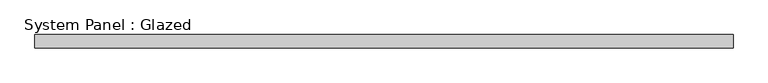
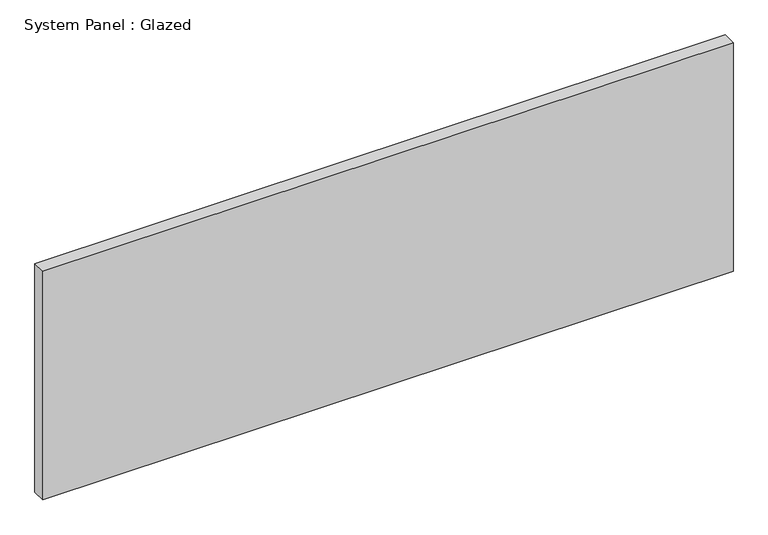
"""IFC4 building model written with IfcOpenShell, lengths in millimetres: plate geometry, System Panel : Glazed."""

import ifcopenshell
import ifcopenshell.guid

model = None  # the IFC model being written
_history = None  # IfcOwnerHistory: only IFC2X3 demands one
_inside = {}  # id of a spatial element -> (the spatial element, [elements in it])
_under = {}  # id of a project, library or spatial element -> (it, [spatial elements below it])
_declared = {}  # id of a project -> (the project, [libraries it declares])
_typed = {}  # id of a type object -> (the type object, [elements of that type])
_made_of = {}  # id of a material, layer set ... -> (it, [elements and type objects made of it])


def new_model(schema):
    """Start an empty IFC model of exactly this schema.

    Asked for "IFC4X3", IfcOpenShell would pick the latest addendum, in which some entities
    have other attributes; the version numbers below select the first issue.
    IFC2X3 requires an IfcOwnerHistory on every rooted entity: one is made here for all.
    """
    global model, _history
    if schema == "IFC4X3":
        model = ifcopenshell.file(schema_version=(4, 3, 0, 0))
    else:
        model = ifcopenshell.file(schema=schema)
    _inside.clear()
    _under.clear()
    _declared.clear()
    _typed.clear()
    _made_of.clear()
    _history = None
    if model.schema == "IFC2X3":
        org = make("IfcOrganization", Name="unknown")
        user = make(
            "IfcPersonAndOrganization",
            ThePerson=make("IfcPerson", FamilyName="unknown"),
            TheOrganization=org,
        )
        app = make(
            "IfcApplication",
            ApplicationDeveloper=org,
            Version="unknown",
            ApplicationFullName="unknown",
            ApplicationIdentifier="unknown",
        )
        _history = make(
            "IfcOwnerHistory",
            OwningUser=user,
            OwningApplication=app,
            ChangeAction="ADDED",
            CreationDate=0,
        )
    return model


def make(cls, **values):
    """One entity of the class cls with the attributes given. An attribute that is None is left unset."""
    return model.create_entity(
        cls, **{name: value for name, value in values.items() if value is not None}
    )


def rooted(cls, **values):
    """An entity with a GlobalId (a new one), such as an element, a storey or a relation."""
    return make(cls, GlobalId=ifcopenshell.guid.new(), OwnerHistory=_history, **values)


def si_unit(unit_type, name, prefix=None):
    """IfcSIUnit, for example si_unit("LENGTHUNIT", "METRE", prefix="MILLI")."""
    return make("IfcSIUnit", UnitType=unit_type, Prefix=prefix, Name=name)


def assignment(units):
    """IfcUnitAssignment: the units of a project."""
    return None if units is None else make("IfcUnitAssignment", Units=units)


def point(xyz):
    """IfcCartesianPoint."""
    return None if xyz is None else make("IfcCartesianPoint", Coordinates=xyz)


def direction(xyz):
    """IfcDirection."""
    return None if xyz is None else make("IfcDirection", DirectionRatios=xyz)


def frame(location, z_axis=None, x_axis=None):
    """IfcAxis2Placement3D, a coordinate frame: its origin and axes. An axis left out is left unset."""
    return make(
        "IfcAxis2Placement3D",
        Location=point(location),
        Axis=direction(z_axis),
        RefDirection=direction(x_axis),
    )


def origin():
    """The frame at (0, 0, 0) with its axes left unset."""
    return frame((0.0, 0.0, 0.0))


def origin_with_axes():
    """The frame at (0, 0, 0) with the z axis (0, 0, 1) and the x axis (1, 0, 0) written out."""
    return frame((0.0, 0.0, 0.0), z_axis=(0.0, 0.0, 1.0), x_axis=(1.0, 0.0, 0.0))


def place(relative_to, where):
    """IfcLocalPlacement: puts the frame where relative to a parent placement (None: the world)."""
    return make(
        "IfcLocalPlacement", PlacementRelTo=relative_to, RelativePlacement=where
    )


def context(
    kind, dimensions, precision=None, world=None, true_north=None, identifier=None
):
    """IfcGeometricRepresentationContext, for example the 3D "Model" context."""
    return make(
        "IfcGeometricRepresentationContext",
        ContextIdentifier=identifier,
        ContextType=kind,
        CoordinateSpaceDimension=dimensions,
        Precision=precision,
        WorldCoordinateSystem=world,
        TrueNorth=true_north,
    )


def project(units=None, contexts=None):
    """IfcProject with its units and contexts."""
    return rooted(
        "IfcProject",
        Name="project",
        RepresentationContexts=contexts,
        UnitsInContext=assignment(units),
    )


def spatial(cls, under=None, at=None, **own):
    """A site, building, storey or space (cls), placed at a placement, below another one or the project."""
    s = rooted(cls, ObjectPlacement=at, **own)
    if under is not None:
        _under.setdefault(under.id(), (under, []))[1].append(s)
    return s


def polyline(points):
    """IfcPolyline through the points."""
    return make("IfcPolyline", Points=[point(p) for p in points])


def outline(outer, holes=None, kind="AREA"):
    """IfcArbitraryClosedProfileDef: a profile drawn as a closed curve; with holes, ...WithVoids."""
    if holes is None:
        return make("IfcArbitraryClosedProfileDef", ProfileType=kind, OuterCurve=outer)
    return make(
        "IfcArbitraryProfileDefWithVoids",
        ProfileType=kind,
        OuterCurve=outer,
        InnerCurves=holes,
    )


def extrude(swept, where, along, depth):
    """IfcExtrudedAreaSolid: the profile swept, set in the frame where, extruded along a direction by depth."""
    return make(
        "IfcExtrudedAreaSolid",
        SweptArea=swept,
        Position=where,
        ExtrudedDirection=direction(along),
        Depth=depth,
    )


def shape(context_of_items, identifier, shape_type, items):
    """IfcShapeRepresentation: the items that make up one representation, for example the "Body"."""
    return make(
        "IfcShapeRepresentation",
        ContextOfItems=context_of_items,
        RepresentationIdentifier=identifier,
        RepresentationType=shape_type,
        Items=items,
    )


def source(mapping_origin, context_of_items, identifier, shape_type, items):
    """IfcRepresentationMap: a shape defined once, which mapped items show again and again."""
    return make(
        "IfcRepresentationMap",
        MappingOrigin=mapping_origin,
        MappedRepresentation=shape(context_of_items, identifier, shape_type, items),
    )


def transform(
    local_origin,
    x_axis=None,
    y_axis=None,
    z_axis=None,
    scale=None,
    scale2=None,
    scale3=None,
    uniform=True,
):
    """IfcCartesianTransformationOperator3D, or its non-uniform kind. x_axis, y_axis, z_axis: its Axis1, 2, 3."""
    if uniform:
        return make(
            "IfcCartesianTransformationOperator3D",
            Axis1=direction(x_axis),
            Axis2=direction(y_axis),
            LocalOrigin=point(local_origin),
            Scale=scale,
            Axis3=direction(z_axis),
        )
    return make(
        "IfcCartesianTransformationOperator3DnonUniform",
        Axis1=direction(x_axis),
        Axis2=direction(y_axis),
        LocalOrigin=point(local_origin),
        Scale=scale,
        Axis3=direction(z_axis),
        Scale2=scale2,
        Scale3=scale3,
    )


def mapped(mapping_source, mapping_target):
    """IfcMappedItem: shows the shape of a source again, moved by a transform."""
    return make(
        "IfcMappedItem", MappingSource=mapping_source, MappingTarget=mapping_target
    )


def made_of(thing, what):
    """Note that an element or type object is made of a material, layer set ...; save() writes the relation."""
    if what is not None:
        _made_of.setdefault(what.id(), (what, []))[1].append(thing)
    return thing


def element(
    cls,
    number,
    at=None,
    inside=None,
    cuts=None,
    type_object=None,
    material=None,
    context=None,
    identifier="Body",
    shape_type=None,
    held_by="IfcProductDefinitionShape",
    body=None,
    shapes=None,
    **own,
):
    """One element of the class cls, such as IfcWall. Its Tag is "e" and its number.

    at: its placement. inside: the storey or other place that contains it. cuts: it is an
    opening in that element (IfcRelVoidsElement). A single representation is given by context,
    identifier, shape_type and body (its items); several are given by shapes. held_by: the class
    of the entity that holds the representations. save() writes the other relations.
    """
    e = rooted(cls, Tag="e%d" % number, ObjectPlacement=at, **own)
    if body is not None:
        shapes = [shape(context, identifier, shape_type, body)]
    if shapes is not None:
        e.Representation = make(held_by, Representations=shapes)
    if inside is not None:
        _inside.setdefault(inside.id(), (inside, []))[1].append(e)
    if cuts is not None:
        rooted(
            "IfcRelVoidsElement", RelatingBuildingElement=cuts, RelatedOpeningElement=e
        )
    if type_object is not None:
        _typed.setdefault(type_object.id(), (type_object, []))[1].append(e)
    return made_of(e, material)


def aggregate(whole, parts):
    """IfcRelAggregates: a whole, such as a stair, and the parts it consists of."""
    return rooted("IfcRelAggregates", RelatingObject=whole, RelatedObjects=parts)


def save(model, path):
    """Write the relations noted so far, then the file.

    IfcRelAggregates (storeys below a building ...), IfcRelContainedInSpatialStructure (elements
    in a storey), IfcRelDefinesByType, IfcRelAssociatesMaterial and IfcRelDeclares: one each for
    every whole, place, type object, material and project.
    """
    for whole, parts in _under.values():
        aggregate(whole, parts)
    for where, things in _inside.values():
        rooted(
            "IfcRelContainedInSpatialStructure",
            RelatedElements=things,
            RelatingStructure=where,
        )
    for kind, things in _typed.values():
        rooted("IfcRelDefinesByType", RelatedObjects=things, RelatingType=kind)
    for what, things in _made_of.values():
        rooted("IfcRelAssociatesMaterial", RelatedObjects=things, RelatingMaterial=what)
    for by, libraries in _declared.values():
        rooted("IfcRelDeclares", RelatingContext=by, RelatedDefinitions=libraries)
    model.write(path)


def system_panel_glazed_869bd01b(model_context):
    return source(origin(), model_context, "Body", "SweptSolid", [
        extrude(outline(polyline([(643.17875, 24.5), (-643.17875, 24.5), (-643.17875, 49.5), (643.17875, 49.5), (643.17875, 24.5)])), origin_with_axes(), (0.0, 0.0, 1.0), 450.0),
    ])


if __name__ == "__main__":
    model = new_model("IFC4")
    model_context = context("Model", 3, world=origin())
    ifc_project = project(units=[si_unit("LENGTHUNIT", "METRE", prefix="MILLI")], contexts=[model_context])
    site = spatial("IfcSite", under=ifc_project)
    building = spatial("IfcBuilding", under=site)
    placement = place(None, origin())
    system_panel_glazed_shape = system_panel_glazed_869bd01b(model_context)
    element("IfcPlate", 1, ObjectType="System Panel : Glazed", at=placement, inside=building, context=model_context, shape_type="MappedRepresentation", body=[
        mapped(system_panel_glazed_shape, transform((0.0, 0.0, 0.0), x_axis=(1.0, 0.0, 0.0), y_axis=(0.0, 1.0, 0.0), z_axis=(0.0, 0.0, 1.0))),
    ])
    save(model, "model.ifc")
